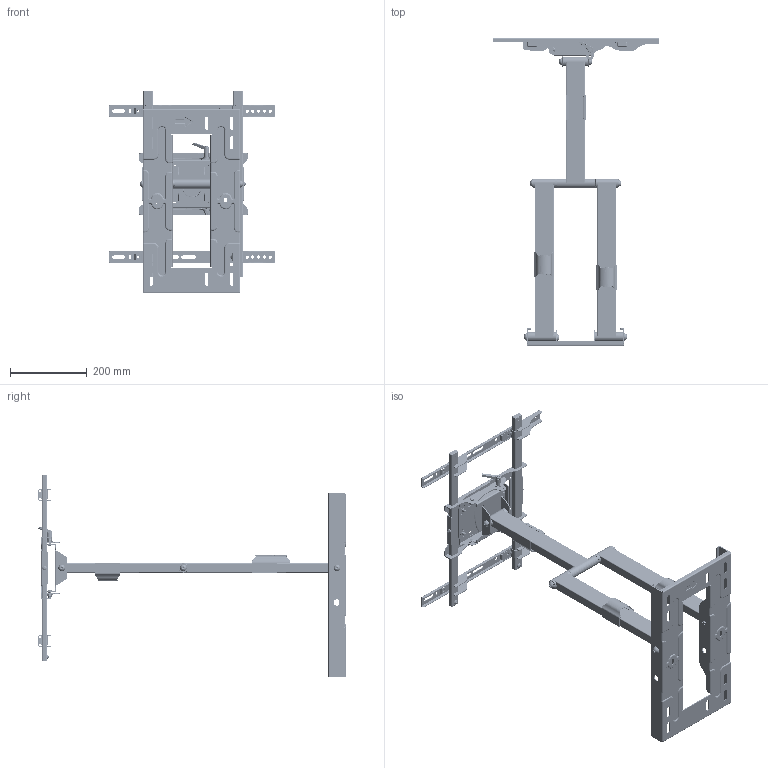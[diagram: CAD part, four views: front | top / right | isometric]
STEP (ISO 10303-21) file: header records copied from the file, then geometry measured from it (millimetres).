
FILE_DESCRIPTION (( 'STEP AP203' ), '1' );
FILE_NAME ('502M-400.STEP', '2019-10-08T07:54:43', ( '微软用户' ), ( 'Sky123.Org' ), 'SwSTEP 2.0', 'SolidWorks 2016', '' );
FILE_SCHEMA (( 'CONFIG_CONTROL_DESIGN' ));
Length unit declared in the file: millimetre
Products named in the file (28): 境像坶え^境像郪璃; 502XL ヶ忒旋; 鎮陬M6-15; 境像郪璃; 502XL綴忒旋; 踢扽菜え; GB_CROSS_SCREWS_TYPE1 M6X12-10  H type-N_GB_CROSS_SCREWS_TYPE1 M6X12-12  H type-N; cross recessed pan head screws gb_GB_CROSS_SCREWS_TYPE1 M6X8-8  H type-S; xian-gai; 褫覃參忒0; 晊諉ん裝黑裔; 蛌啣0; 陔蛌芛郪璃1; 玴諉ん_800; 境啣0; 呿蹋菜え_OD25_ID16_T3_5; GB_SOCKET_TYPE7 M10X20-N_GB_SOCKET_TYPE7 M10X20-N_5; MACHELUOSI; 玴諉ん裝_800; 酗粣_5; GB_FASTENER_WASHER_SMWC 10_GB_FASTENER_WASHER_SMWC 10_5; M6攝韓蹟譫; LJB0; 502傻粣II_5; 502M-400; 16 6.2 1.5; 境像; 502Х啣_5
Assembly tree (70 placements, depth 5):
  502M-400
    呿蹋菜え_OD25_ID16_T3_5  x10
    酗粣_5
    502傻粣II_5  x2
    502Х啣_5
    502XL ヶ忒旋
    502XL綴忒旋  x2
    xian-gai  x3
    陔蛌芛郪璃1
      蛌啣0
      境啣0
      玴諉ん_800
        玴諉ん裝_800  x2
        LJB0
        境像郪璃  x2
          境像
          境像坶え^境像郪璃
        cross recessed pan head screws gb_GB_CROSS_SCREWS_TYPE1 M6X8-8  H type-S  x2
        晊諉ん裝黑裔  x4
      MACHELUOSI  x2
      M6攝韓蹟譫  x5
      16 6.2 1.5  x4
      踢扽菜え  x2
      鎮陬M6-15  x2
      GB_CROSS_SCREWS_TYPE1 M6X12-10  H type-N_GB_CROSS_SCREWS_TYPE1 M6X12-12  H type-N  x2
      晊諉ん裝黑裔
      褫覃參忒0
    GB_SOCKET_TYPE7 M10X20-N_GB_SOCKET_TYPE7 M10X20-N_5  x7
    GB_FASTENER_WASHER_SMWC 10_GB_FASTENER_WASHER_SMWC 10_5  x7
Bounding box: 435 x 800.79 x 528 mm (x, y, z)
Volume: 1887243.8 mm3; surface area: 1172745.9 mm2
Topology: 71 solids, 74 shells, 5258 faces, 13056 edges, 7910 vertices
Faces by surface type: cylinder 2246, bspline 1465, plane 1286, cone 226, sphere 22, torus 13
Entity records: 111845 total; most frequent: CARTESIAN_POINT 45982, ORIENTED_EDGE 13698, DIRECTION 12212, EDGE_CURVE 6849, AXIS2_PLACEMENT_3D 4588, VERTEX_POINT 4184, VECTOR 3036, LINE 3036
